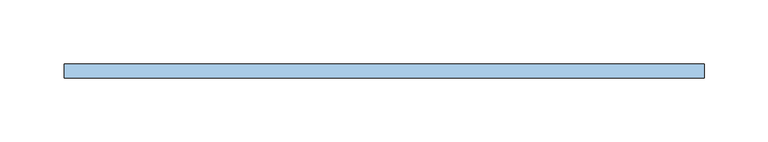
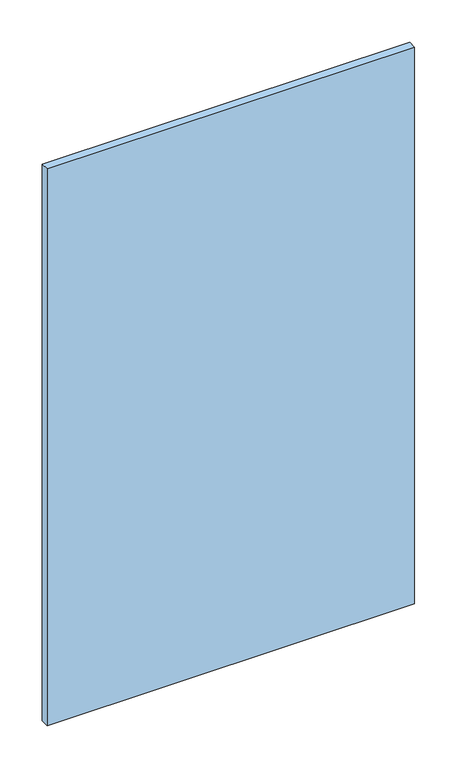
"""IFC4 building model written with IfcOpenShell, lengths in millimetres: window geometry, espejo biselado sin marco : ESP-SERV."""

from ifc_helpers import new_model, si_unit, frame, origin, place, context, project, spatial, polyline, outline, extrude, source, transform, mapped, element, save


def window_199c4525(model_context):
    return source(origin(), model_context, "Body", "SweptSolid", [
        extrude(outline(polyline([(-250.0, 84.0), (-250.0, 95.0), (250.0, 95.0), (250.0, 84.0), (-250.0, 84.0)])), frame((0.0, 0.0, 200.0), z_axis=(0.0, 0.0, 1.0), x_axis=(1.0, 0.0, 0.0)), (0.0, 0.0, 1.0), 800.0),
    ])


if __name__ == "__main__":
    model = new_model("IFC4")
    model_context = context("Model", 3, world=origin())
    ifc_project = project(units=[si_unit("LENGTHUNIT", "METRE", prefix="MILLI")], contexts=[model_context])
    site = spatial("IfcSite", under=ifc_project)
    building = spatial("IfcBuilding", under=site)
    placement = place(None, origin())
    window_shape = window_199c4525(model_context)
    element("IfcWindow", 1, ObjectType="espejo biselado sin marco : ESP-SERV", at=placement, inside=building, context=model_context, shape_type="MappedRepresentation", body=[
        mapped(window_shape, transform((0.0, 0.0, 0.0), x_axis=(1.0, 0.0, 0.0), y_axis=(0.0, 1.0, 0.0), z_axis=(0.0, 0.0, 1.0))),
    ])
    save(model, "model.ifc")
